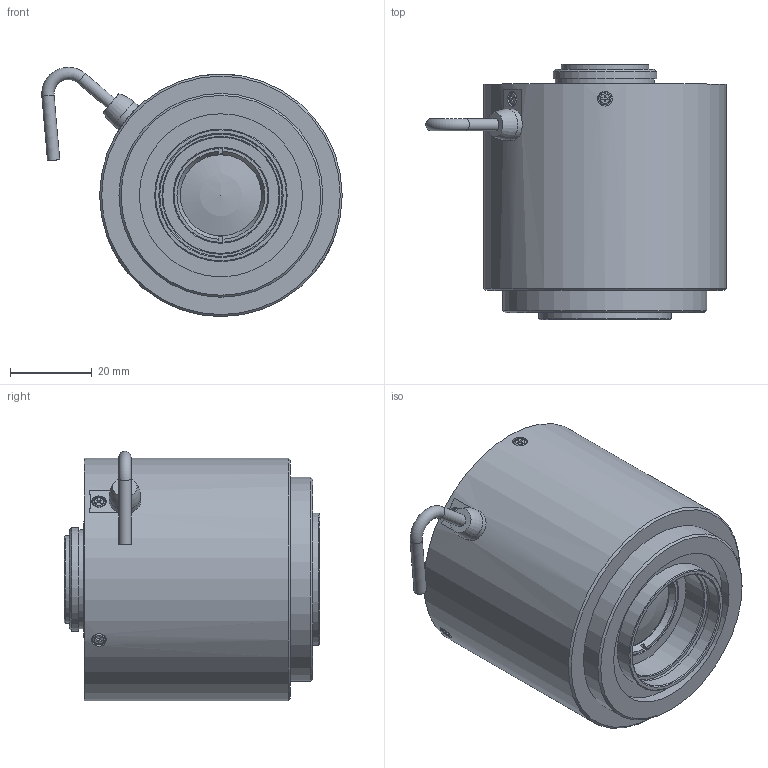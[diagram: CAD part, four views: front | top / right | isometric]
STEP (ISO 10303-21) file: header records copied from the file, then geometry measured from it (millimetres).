
FILE_DESCRIPTION(/* description */ ('Unknown'),/* implementation_level */ '2;1');
FILE_NAME(/* name */ 'Reference 3D-drawing of DL3525UC-MPY (Confidential_Tentative)_211014',/* time_stamp */ '2021-10-14T10:26:30+09:00',/* author */ ('Unknown'),/* organization */ ('Unknown'),/* preprocessor_version */ 'ST-DEVELOPER v16.7',/* originating_system */ 'DEX',/* authorisation */ $);
FILE_SCHEMA (('AUTOMOTIVE_DESIGN {1 0 10303 214 3 1 1}'));
Length unit declared in the file: millimetre
Products named in the file (1): DL3525UC-MPY
Bounding box: 73.68 x 62.69 x 61.13 mm (x, y, z)
Volume: 146538.7 mm3; surface area: 18830.1 mm2
Topology: 1 solids, 6 shells, 284 faces, 677 edges, 445 vertices
Faces by surface type: plane 196, cylinder 55, cone 21, torus 10, sphere 2
Full cylindrical faces by diameter (mm): 1 x2, 2 x4, 2.2 x4, 3 x10, 3.6 x4, 3.8 x4, 7.699 x1, 14.6 x1, 15.212 x1, 19.9 x1, 21.5 x1, 24.3 x1, 25.4 x1, 28.5 x1, 29 x1, 30 x1, 30.5 x1, 32.5 x1, 40 x1, 50 x1, 59.5 x1
Entity records: 9703 total; most frequent: CARTESIAN_POINT 1421, DIRECTION 1263, ORIENTED_EDGE 1166, EDGE_CURVE 583, LINE 441, VECTOR 441, VERTEX_POINT 427, AXIS2_PLACEMENT_3D 411
